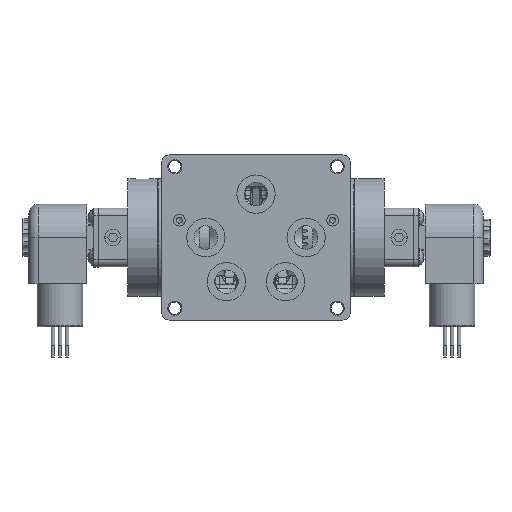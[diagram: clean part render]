
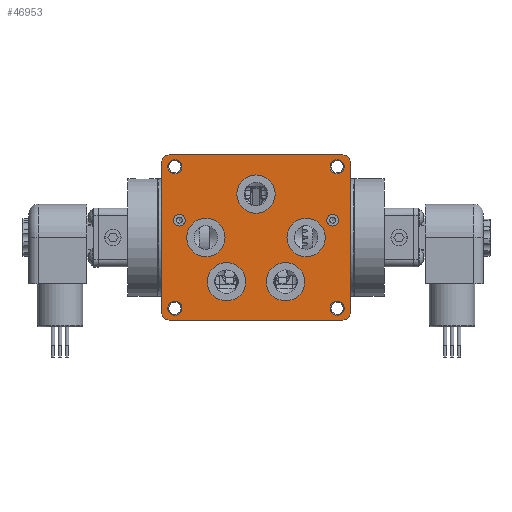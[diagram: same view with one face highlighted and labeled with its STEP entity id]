
A CAD part, front view. The second image highlights one B-rep face of the part: STEP entity #46953.
In plain terms, the highlighted planar face has unit normal (0, -1, 0).
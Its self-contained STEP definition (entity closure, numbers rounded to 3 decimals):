
#2774=LINE('',#78895,#5446);
#2804=LINE('',#79127,#5476);
#3294=LINE('',#92910,#5966);
#3297=LINE('',#92917,#5969);
#5446=VECTOR('',#61861,8.096);
#5476=VECTOR('',#61961,9.366);
#5966=VECTOR('',#63525,9.366);
#5969=VECTOR('',#63534,8.096);
#8695=FACE_BOUND('',#15323,.T.);
#8696=FACE_BOUND('',#15324,.T.);
#8697=FACE_BOUND('',#15325,.T.);
#8698=FACE_BOUND('',#15326,.T.);
#8699=FACE_BOUND('',#15327,.T.);
#8700=FACE_BOUND('',#15328,.T.);
#8701=FACE_BOUND('',#15329,.T.);
#8702=FACE_BOUND('',#15330,.T.);
#8703=FACE_BOUND('',#15331,.T.);
#8704=FACE_BOUND('',#15332,.T.);
#8705=FACE_BOUND('',#15333,.T.);
#11849=FACE_OUTER_BOUND('',#15322,.T.);
#15322=EDGE_LOOP('',(#39880,#39881,#39882,#39883,#39884,#39885,#39886,#39887));
#15323=EDGE_LOOP('',(#39888));
#15324=EDGE_LOOP('',(#39889));
#15325=EDGE_LOOP('',(#39890));
#15326=EDGE_LOOP('',(#39891));
#15327=EDGE_LOOP('',(#39892));
#15328=EDGE_LOOP('',(#39893));
#15329=EDGE_LOOP('',(#39894));
#15330=EDGE_LOOP('',(#39895));
#15331=EDGE_LOOP('',(#39896));
#15332=EDGE_LOOP('',(#39897));
#15333=EDGE_LOOP('',(#39898));
#17487=CIRCLE('',#51097,0.397);
#17488=CIRCLE('',#51100,0.397);
#17698=CIRCLE('',#51634,0.397);
#17699=CIRCLE('',#51637,0.397);
#17700=CIRCLE('',#51640,0.318);
#17701=CIRCLE('',#51641,0.318);
#17702=CIRCLE('',#51642,1.031);
#17703=CIRCLE('',#51643,1.031);
#17704=CIRCLE('',#51644,1.031);
#17705=CIRCLE('',#51645,1.031);
#17706=CIRCLE('',#51646,1.031);
#17707=CIRCLE('',#51647,0.381);
#17708=CIRCLE('',#51648,0.381);
#17709=CIRCLE('',#51649,0.381);
#17710=CIRCLE('',#51650,0.381);
#20865=VERTEX_POINT('',#78893);
#20866=VERTEX_POINT('',#78894);
#20919=VERTEX_POINT('',#79120);
#20920=VERTEX_POINT('',#79121);
#20921=VERTEX_POINT('',#79126);
#21766=VERTEX_POINT('',#92905);
#21767=VERTEX_POINT('',#92909);
#21768=VERTEX_POINT('',#92913);
#21769=VERTEX_POINT('',#92919);
#21770=VERTEX_POINT('',#92921);
#21771=VERTEX_POINT('',#92923);
#21772=VERTEX_POINT('',#92925);
#21773=VERTEX_POINT('',#92927);
#21774=VERTEX_POINT('',#92929);
#21775=VERTEX_POINT('',#92931);
#21776=VERTEX_POINT('',#92933);
#21777=VERTEX_POINT('',#92935);
#21778=VERTEX_POINT('',#92937);
#21779=VERTEX_POINT('',#92939);
#26451=EDGE_CURVE('',#20865,#20866,#2774,.T.);
#26516=EDGE_CURVE('',#20919,#20920,#17487,.T.);
#26519=EDGE_CURVE('',#20920,#20921,#2804,.T.);
#26523=EDGE_CURVE('',#20921,#20865,#17488,.T.);
#27893=EDGE_CURVE('',#20866,#21766,#17698,.T.);
#27895=EDGE_CURVE('',#21766,#21767,#3294,.T.);
#27897=EDGE_CURVE('',#21767,#21768,#17699,.T.);
#27899=EDGE_CURVE('',#21768,#20919,#3297,.T.);
#27900=EDGE_CURVE('',#21769,#21769,#17700,.T.);
#27901=EDGE_CURVE('',#21770,#21770,#17701,.T.);
#27902=EDGE_CURVE('',#21771,#21771,#17702,.T.);
#27903=EDGE_CURVE('',#21772,#21772,#17703,.T.);
#27904=EDGE_CURVE('',#21773,#21773,#17704,.T.);
#27905=EDGE_CURVE('',#21774,#21774,#17705,.T.);
#27906=EDGE_CURVE('',#21775,#21775,#17706,.T.);
#27907=EDGE_CURVE('',#21776,#21776,#17707,.T.);
#27908=EDGE_CURVE('',#21777,#21777,#17708,.T.);
#27909=EDGE_CURVE('',#21778,#21778,#17709,.T.);
#27910=EDGE_CURVE('',#21779,#21779,#17710,.T.);
#39880=ORIENTED_EDGE('',*,*,#27893,.T.);
#39881=ORIENTED_EDGE('',*,*,#27895,.T.);
#39882=ORIENTED_EDGE('',*,*,#27897,.T.);
#39883=ORIENTED_EDGE('',*,*,#27899,.T.);
#39884=ORIENTED_EDGE('',*,*,#26516,.T.);
#39885=ORIENTED_EDGE('',*,*,#26519,.T.);
#39886=ORIENTED_EDGE('',*,*,#26523,.T.);
#39887=ORIENTED_EDGE('',*,*,#26451,.T.);
#39888=ORIENTED_EDGE('',*,*,#27900,.T.);
#39889=ORIENTED_EDGE('',*,*,#27901,.T.);
#39890=ORIENTED_EDGE('',*,*,#27902,.T.);
#39891=ORIENTED_EDGE('',*,*,#27903,.T.);
#39892=ORIENTED_EDGE('',*,*,#27904,.T.);
#39893=ORIENTED_EDGE('',*,*,#27905,.T.);
#39894=ORIENTED_EDGE('',*,*,#27906,.T.);
#39895=ORIENTED_EDGE('',*,*,#27907,.T.);
#39896=ORIENTED_EDGE('',*,*,#27908,.T.);
#39897=ORIENTED_EDGE('',*,*,#27909,.T.);
#39898=ORIENTED_EDGE('',*,*,#27910,.T.);
#41520=PLANE('',#51639);
#46953=ADVANCED_FACE('',(#11849,#8695,#8696,#8697,#8698,#8699,#8700,#8701,
#8702,#8703,#8704,#8705),#41520,.T.);
#51097=AXIS2_PLACEMENT_3D('',#79122,#61955,#61956);
#51100=AXIS2_PLACEMENT_3D('',#79133,#61967,#61968);
#51634=AXIS2_PLACEMENT_3D('',#92906,#63520,#63521);
#51637=AXIS2_PLACEMENT_3D('',#92914,#63529,#63530);
#51639=AXIS2_PLACEMENT_3D('',#92918,#63535,#63536);
#51640=AXIS2_PLACEMENT_3D('',#92920,#63537,#63538);
#51641=AXIS2_PLACEMENT_3D('',#92922,#63539,#63540);
#51642=AXIS2_PLACEMENT_3D('',#92924,#63541,#63542);
#51643=AXIS2_PLACEMENT_3D('',#92926,#63543,#63544);
#51644=AXIS2_PLACEMENT_3D('',#92928,#63545,#63546);
#51645=AXIS2_PLACEMENT_3D('',#92930,#63547,#63548);
#51646=AXIS2_PLACEMENT_3D('',#92932,#63549,#63550);
#51647=AXIS2_PLACEMENT_3D('',#92934,#63551,#63552);
#51648=AXIS2_PLACEMENT_3D('',#92936,#63553,#63554);
#51649=AXIS2_PLACEMENT_3D('',#92938,#63555,#63556);
#51650=AXIS2_PLACEMENT_3D('',#92940,#63557,#63558);
#61861=DIRECTION('',(0.,0.,1.));
#61955=DIRECTION('center_axis',(0.,-1.,0.));
#61956=DIRECTION('ref_axis',(-0.707,0.,-0.707));
#61961=DIRECTION('',(1.,0.,0.));
#61967=DIRECTION('center_axis',(0.,-1.,0.));
#61968=DIRECTION('ref_axis',(0.707,0.,-0.707));
#63520=DIRECTION('center_axis',(0.,-1.,0.));
#63521=DIRECTION('ref_axis',(0.707,0.,0.707));
#63525=DIRECTION('',(-1.,0.,0.));
#63529=DIRECTION('center_axis',(0.,-1.,0.));
#63530=DIRECTION('ref_axis',(-0.707,0.,0.707));
#63534=DIRECTION('',(0.,0.,-1.));
#63535=DIRECTION('center_axis',(0.,-1.,0.));
#63536=DIRECTION('ref_axis',(0.,0.,-1.));
#63537=DIRECTION('center_axis',(0.,1.,0.));
#63538=DIRECTION('ref_axis',(1.,0.,0.));
#63539=DIRECTION('center_axis',(0.,1.,0.));
#63540=DIRECTION('ref_axis',(1.,0.,0.));
#63541=DIRECTION('center_axis',(0.,1.,0.));
#63542=DIRECTION('ref_axis',(1.,0.,0.));
#63543=DIRECTION('center_axis',(0.,1.,0.));
#63544=DIRECTION('ref_axis',(1.,0.,0.));
#63545=DIRECTION('center_axis',(0.,1.,0.));
#63546=DIRECTION('ref_axis',(1.,0.,0.));
#63547=DIRECTION('center_axis',(0.,1.,0.));
#63548=DIRECTION('ref_axis',(1.,0.,0.));
#63549=DIRECTION('center_axis',(0.,1.,0.));
#63550=DIRECTION('ref_axis',(1.,0.,0.));
#63551=DIRECTION('center_axis',(0.,1.,0.));
#63552=DIRECTION('ref_axis',(1.,0.,0.));
#63553=DIRECTION('center_axis',(0.,1.,0.));
#63554=DIRECTION('ref_axis',(1.,0.,0.));
#63555=DIRECTION('center_axis',(0.,1.,0.));
#63556=DIRECTION('ref_axis',(1.,0.,0.));
#63557=DIRECTION('center_axis',(0.,1.,0.));
#63558=DIRECTION('ref_axis',(1.,0.,0.));
#78893=CARTESIAN_POINT('',(5.08,-3.335,-4.048));
#78894=CARTESIAN_POINT('',(5.08,-3.335,4.048));
#78895=CARTESIAN_POINT('',(5.08,-3.335,-2.223));
#79120=CARTESIAN_POINT('',(-5.08,-3.335,-4.048));
#79121=CARTESIAN_POINT('',(-4.683,-3.335,-4.445));
#79122=CARTESIAN_POINT('Origin',(-4.683,-3.335,-4.048));
#79126=CARTESIAN_POINT('',(4.683,-3.335,-4.445));
#79127=CARTESIAN_POINT('',(0.087,-3.335,-4.445));
#79133=CARTESIAN_POINT('Origin',(4.683,-3.335,-4.048));
#92905=CARTESIAN_POINT('',(4.683,-3.335,4.445));
#92906=CARTESIAN_POINT('Origin',(4.683,-3.335,4.048));
#92909=CARTESIAN_POINT('',(-4.683,-3.335,4.445));
#92910=CARTESIAN_POINT('',(5.167,-3.335,4.445));
#92913=CARTESIAN_POINT('',(-5.08,-3.335,4.048));
#92914=CARTESIAN_POINT('Origin',(-4.683,-3.335,4.048));
#92917=CARTESIAN_POINT('',(-5.08,-3.335,2.223));
#92918=CARTESIAN_POINT('Origin',(5.254,-3.335,0.));
#92919=CARTESIAN_POINT('',(4.445,-3.335,0.935));
#92920=CARTESIAN_POINT('Origin',(4.128,-3.335,0.935));
#92921=CARTESIAN_POINT('',(-3.81,-3.335,0.935));
#92922=CARTESIAN_POINT('Origin',(-4.128,-3.335,0.935));
#92923=CARTESIAN_POINT('',(2.619,-3.335,-2.38));
#92924=CARTESIAN_POINT('Origin',(1.588,-3.335,-2.38));
#92925=CARTESIAN_POINT('',(-0.556,-3.335,-2.38));
#92926=CARTESIAN_POINT('Origin',(-1.588,-3.335,-2.38));
#92927=CARTESIAN_POINT('',(1.031,-3.335,2.339));
#92928=CARTESIAN_POINT('Origin',(0.,-3.335,2.339));
#92929=CARTESIAN_POINT('',(3.73,-3.335,0.));
#92930=CARTESIAN_POINT('Origin',(2.699,-3.335,0.));
#92931=CARTESIAN_POINT('',(-1.668,-3.335,0.));
#92932=CARTESIAN_POINT('Origin',(-2.699,-3.335,0.));
#92933=CARTESIAN_POINT('',(4.747,-3.335,3.81));
#92934=CARTESIAN_POINT('Origin',(4.366,-3.335,3.81));
#92935=CARTESIAN_POINT('',(4.747,-3.335,-3.81));
#92936=CARTESIAN_POINT('Origin',(4.366,-3.335,-3.81));
#92937=CARTESIAN_POINT('',(-3.985,-3.335,-3.81));
#92938=CARTESIAN_POINT('Origin',(-4.366,-3.335,-3.81));
#92939=CARTESIAN_POINT('',(-3.985,-3.335,3.81));
#92940=CARTESIAN_POINT('Origin',(-4.366,-3.335,3.81));
